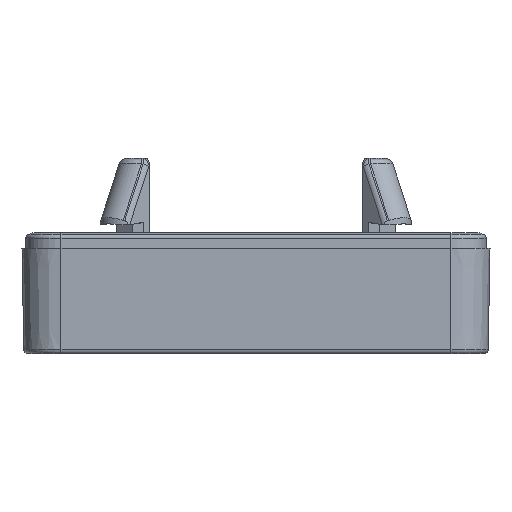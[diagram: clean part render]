
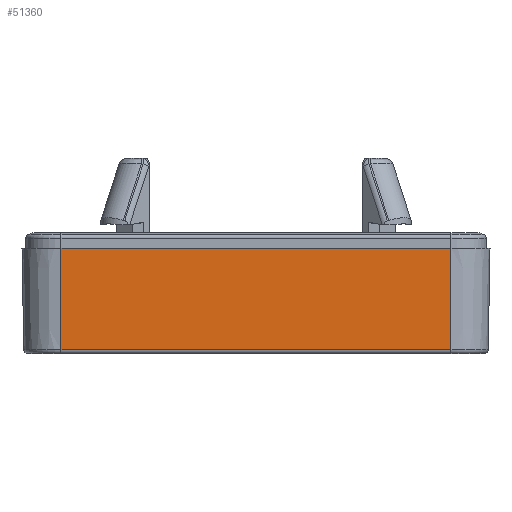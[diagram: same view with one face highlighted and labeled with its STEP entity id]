
A CAD part, left-side view. The second image highlights one B-rep face of the part: STEP entity #51360.
In plain terms, the highlighted planar face has unit normal (-1, 0, -0.018).
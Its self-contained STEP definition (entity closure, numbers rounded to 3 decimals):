
#1180=PLANE('',#55226);
#3317=LINE('',#80072,#7939);
#3318=LINE('',#80074,#7940);
#3319=LINE('',#80076,#7941);
#3320=LINE('',#80077,#7942);
#7939=VECTOR('',#61555,10.);
#7940=VECTOR('',#61556,10.);
#7941=VECTOR('',#61557,10.);
#7942=VECTOR('',#61558,10.);
#12957=FACE_OUTER_BOUND('',#16148,.T.);
#16148=EDGE_LOOP('',(#36811,#36812,#36813,#36814));
#22973=VERTEX_POINT('',#80070);
#22974=VERTEX_POINT('',#80071);
#22975=VERTEX_POINT('',#80073);
#22976=VERTEX_POINT('',#80075);
#28330=EDGE_CURVE('',#22973,#22974,#3317,.T.);
#28331=EDGE_CURVE('',#22975,#22973,#3318,.T.);
#28332=EDGE_CURVE('',#22976,#22975,#3319,.T.);
#28333=EDGE_CURVE('',#22976,#22974,#3320,.T.);
#36811=ORIENTED_EDGE('',*,*,#28330,.F.);
#36812=ORIENTED_EDGE('',*,*,#28331,.F.);
#36813=ORIENTED_EDGE('',*,*,#28332,.F.);
#36814=ORIENTED_EDGE('',*,*,#28333,.T.);
#51360=ADVANCED_FACE('',(#12957),#1180,.F.);
#55226=AXIS2_PLACEMENT_3D('',#80069,#61553,#61554);
#61553=DIRECTION('center_axis',(1.,0.,
0.017));
#61554=DIRECTION('ref_axis',(0.017,0.,-1.));
#61555=DIRECTION('',(0.,1.,0.));
#61556=DIRECTION('',(0.017,0.,-1.));
#61557=DIRECTION('',(0.,-1.,0.));
#61558=DIRECTION('',(0.017,0.,-1.));
#80069=CARTESIAN_POINT('Origin',(-74.,25.,0.));
#80070=CARTESIAN_POINT('',(-73.773,-25.,-13.009));
#80071=CARTESIAN_POINT('',(-73.773,25.,-13.009));
#80072=CARTESIAN_POINT('',(-73.773,19.916,-13.009));
#80073=CARTESIAN_POINT('',(-74.,-25.,0.));
#80074=CARTESIAN_POINT('',(-73.764,-25.,-13.5));
#80075=CARTESIAN_POINT('',(-74.,25.,0.));
#80076=CARTESIAN_POINT('',(-74.,0.,0.));
#80077=CARTESIAN_POINT('',(-73.764,25.,-13.5));
